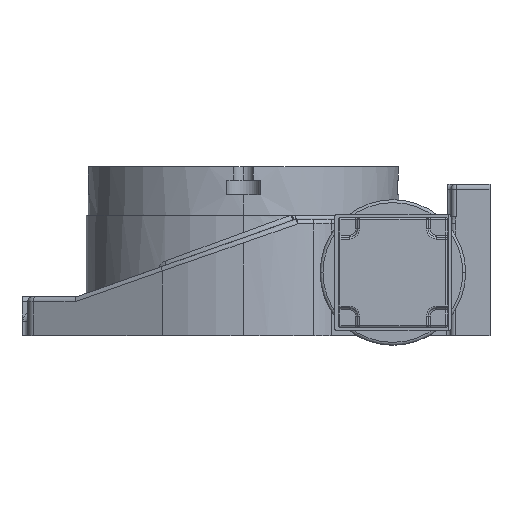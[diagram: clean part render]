
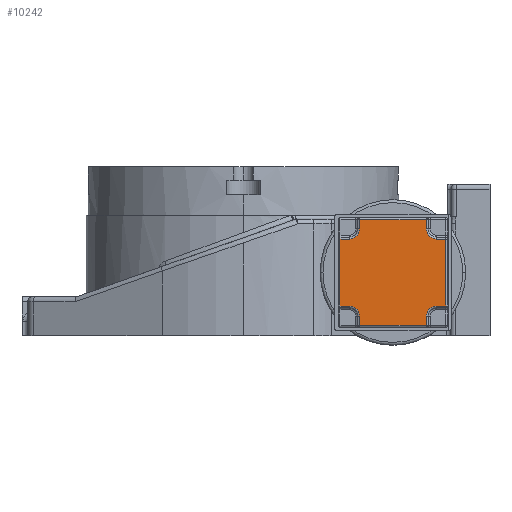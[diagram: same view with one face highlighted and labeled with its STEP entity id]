
A CAD part, left-side view. The second image highlights one B-rep face of the part: STEP entity #10242.
In plain terms, the highlighted planar face has unit normal (-1, 0, 0).
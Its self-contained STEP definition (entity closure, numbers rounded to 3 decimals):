
#946 = EDGE_CURVE ( 'NONE', #10629, #10627, #11442, .T. ) ;
#947 = EDGE_CURVE ( 'NONE', #10627, #10623, #11452, .T. ) ;
#948 = EDGE_CURVE ( 'NONE', #10623, #10622, #11454, .T. ) ;
#949 = EDGE_CURVE ( 'NONE', #10622, #10621, #11456, .T. ) ;
#950 = EDGE_CURVE ( 'NONE', #10621, #10620, #11458, .T. ) ;
#951 = EDGE_CURVE ( 'NONE', #10620, #10619, #11460, .T. ) ;
#952 = EDGE_CURVE ( 'NONE', #10619, #10618, #11461, .T. ) ;
#953 = EDGE_CURVE ( 'NONE', #10618, #10617, #11463, .T. ) ;
#954 = EDGE_CURVE ( 'NONE', #10617, #10616, #11465, .T. ) ;
#955 = EDGE_CURVE ( 'NONE', #10616, #10615, #11467, .T. ) ;
#956 = EDGE_CURVE ( 'NONE', #10615, #10614, #11468, .T. ) ;
#957 = EDGE_CURVE ( 'NONE', #10614, #10613, #11470, .T. ) ;
#958 = EDGE_CURVE ( 'NONE', #10613, #10612, #11472, .T. ) ;
#959 = EDGE_CURVE ( 'NONE', #10612, #10611, #11474, .T. ) ;
#960 = EDGE_CURVE ( 'NONE', #10611, #10610, #11475, .T. ) ;
#961 = EDGE_CURVE ( 'NONE', #10610, #10629, #11477, .T. ) ;
#1143 = EDGE_LOOP ( 'NONE', ( #6783, #6747, #6748, #6888, #6976, #6868, #6834, #6785, #6890, #7020, #7012, #6870, #7016, #6832, #6851, #6796 ) ) ;
#2505 = CARTESIAN_POINT ( 'NONE',  ( -311.5, 0., 15.25 ) ) ;
#2527 = DIRECTION ( 'NONE',  ( 0., 0., -1. ) ) ;
#2533 = DIRECTION ( 'NONE',  ( 0., -1., 0. ) ) ;
#2536 = CARTESIAN_POINT ( 'NONE',  ( -311.5, 67.25, 0. ) ) ;
#2538 = CARTESIAN_POINT ( 'NONE',  ( -311.5, 72.422, 10.078 ) ) ;
#2539 = DIRECTION ( 'NONE',  ( 1., 0., 0. ) ) ;
#2540 = DIRECTION ( 'NONE',  ( 0., 1., 0. ) ) ;
#2543 = CARTESIAN_POINT ( 'NONE',  ( -311.5, 0., 5.25 ) ) ;
#2545 = DIRECTION ( 'NONE',  ( 0., -1., 0. ) ) ;
#2547 = CARTESIAN_POINT ( 'NONE',  ( -311.5, 32.75, 0. ) ) ;
#2551 = DIRECTION ( 'NONE',  ( 0., 0., 1. ) ) ;
#2552 = CARTESIAN_POINT ( 'NONE',  ( -311.5, 32.75, 0. ) ) ;
#2553 = DIRECTION ( 'NONE',  ( 0., 0., 1. ) ) ;
#2554 = CARTESIAN_POINT ( 'NONE',  ( -311.5, 27.578, 10.078 ) ) ;
#2556 = DIRECTION ( 'NONE',  ( 1., 0., 0. ) ) ;
#2558 = DIRECTION ( 'NONE',  ( 0., 1., 0. ) ) ;
#2561 = CARTESIAN_POINT ( 'NONE',  ( -311.5, 22.75, 0. ) ) ;
#2564 = DIRECTION ( 'NONE',  ( 0., 0., 1. ) ) ;
#2566 = CARTESIAN_POINT ( 'NONE',  ( -311.5, 0., 49.75 ) ) ;
#2570 = DIRECTION ( 'NONE',  ( 0., 1., 0. ) ) ;
#2573 = CARTESIAN_POINT ( 'NONE',  ( -311.5, 0., 49.75 ) ) ;
#2575 = DIRECTION ( 'NONE',  ( 0., 1., 0. ) ) ;
#2576 = CARTESIAN_POINT ( 'NONE',  ( -311.5, 27.578, 54.922 ) ) ;
#2577 = DIRECTION ( 'NONE',  ( 1., 0., 0. ) ) ;
#2580 = DIRECTION ( 'NONE',  ( 0., 1., 0. ) ) ;
#2582 = CARTESIAN_POINT ( 'NONE',  ( -311.5, 0., 59.75 ) ) ;
#2583 = DIRECTION ( 'NONE',  ( 0., 1., 0. ) ) ;
#2585 = CARTESIAN_POINT ( 'NONE',  ( -311.5, 67.25, 0. ) ) ;
#2586 = DIRECTION ( 'NONE',  ( 0., 0., -1. ) ) ;
#2591 = CARTESIAN_POINT ( 'NONE',  ( -311.5, 72.422, 54.922 ) ) ;
#2592 = DIRECTION ( 'NONE',  ( 1., 0., 0. ) ) ;
#2593 = DIRECTION ( 'NONE',  ( 0., 1., 0. ) ) ;
#2594 = CARTESIAN_POINT ( 'NONE',  ( -311.5, 77.25, 0. ) ) ;
#2595 = DIRECTION ( 'NONE',  ( 0., 0., -1. ) ) ;
#2597 = CARTESIAN_POINT ( 'NONE',  ( -311.5, 0., 15.25 ) ) ;
#2599 = DIRECTION ( 'NONE',  ( 0., -1., 0. ) ) ;
#4175 = FACE_OUTER_BOUND ( 'NONE', #1143, .T. ) ;
#5317 = PLANE ( 'NONE',  #9777 ) ;
#5318 = CARTESIAN_POINT ( 'NONE',  ( -311.5, 0., 0. ) ) ;
#5323 = DIRECTION ( 'NONE',  ( 1., 0., 0. ) ) ;
#5324 = DIRECTION ( 'NONE',  ( 0., 1., 0. ) ) ;
#5637 = CARTESIAN_POINT ( 'NONE',  ( -311.5, 77.25, 15.25 ) ) ;
#5638 = CARTESIAN_POINT ( 'NONE',  ( -311.5, 77.25, 49.75 ) ) ;
#5639 = CARTESIAN_POINT ( 'NONE',  ( -311.5, 72.422, 49.75 ) ) ;
#5640 = CARTESIAN_POINT ( 'NONE',  ( -311.5, 67.25, 54.922 ) ) ;
#5641 = CARTESIAN_POINT ( 'NONE',  ( -311.5, 67.25, 59.75 ) ) ;
#5642 = CARTESIAN_POINT ( 'NONE',  ( -311.5, 32.75, 59.75 ) ) ;
#5643 = CARTESIAN_POINT ( 'NONE',  ( -311.5, 32.75, 54.922 ) ) ;
#5644 = CARTESIAN_POINT ( 'NONE',  ( -311.5, 27.578, 49.75 ) ) ;
#5645 = CARTESIAN_POINT ( 'NONE',  ( -311.5, 22.75, 49.75 ) ) ;
#5646 = CARTESIAN_POINT ( 'NONE',  ( -311.5, 22.75, 15.25 ) ) ;
#5647 = CARTESIAN_POINT ( 'NONE',  ( -311.5, 27.578, 15.25 ) ) ;
#5648 = CARTESIAN_POINT ( 'NONE',  ( -311.5, 32.75, 10.078 ) ) ;
#5649 = CARTESIAN_POINT ( 'NONE',  ( -311.5, 32.75, 5.25 ) ) ;
#5650 = CARTESIAN_POINT ( 'NONE',  ( -311.5, 67.25, 5.25 ) ) ;
#5654 = CARTESIAN_POINT ( 'NONE',  ( -311.5, 67.25, 10.078 ) ) ;
#5656 = CARTESIAN_POINT ( 'NONE',  ( -311.5, 72.422, 15.25 ) ) ;
#6747 = ORIENTED_EDGE ( 'NONE', *, *, #947, .T. ) ;
#6748 = ORIENTED_EDGE ( 'NONE', *, *, #948, .T. ) ;
#6783 = ORIENTED_EDGE ( 'NONE', *, *, #946, .T. ) ;
#6785 = ORIENTED_EDGE ( 'NONE', *, *, #953, .T. ) ;
#6796 = ORIENTED_EDGE ( 'NONE', *, *, #961, .T. ) ;
#6832 = ORIENTED_EDGE ( 'NONE', *, *, #959, .T. ) ;
#6834 = ORIENTED_EDGE ( 'NONE', *, *, #952, .T. ) ;
#6851 = ORIENTED_EDGE ( 'NONE', *, *, #960, .T. ) ;
#6868 = ORIENTED_EDGE ( 'NONE', *, *, #951, .T. ) ;
#6870 = ORIENTED_EDGE ( 'NONE', *, *, #957, .T. ) ;
#6888 = ORIENTED_EDGE ( 'NONE', *, *, #949, .T. ) ;
#6890 = ORIENTED_EDGE ( 'NONE', *, *, #954, .T. ) ;
#6976 = ORIENTED_EDGE ( 'NONE', *, *, #950, .T. ) ;
#7012 = ORIENTED_EDGE ( 'NONE', *, *, #956, .T. ) ;
#7016 = ORIENTED_EDGE ( 'NONE', *, *, #958, .T. ) ;
#7020 = ORIENTED_EDGE ( 'NONE', *, *, #955, .T. ) ;
#9364 = AXIS2_PLACEMENT_3D ( 'NONE', #2538, #2539, #2540 ) ;
#9365 = AXIS2_PLACEMENT_3D ( 'NONE', #2554, #2556, #2558 ) ;
#9366 = AXIS2_PLACEMENT_3D ( 'NONE', #2576, #2577, #2580 ) ;
#9367 = AXIS2_PLACEMENT_3D ( 'NONE', #2591, #2592, #2593 ) ;
#9777 = AXIS2_PLACEMENT_3D ( 'NONE', #5318, #5323, #5324 ) ;
#10242 = ADVANCED_FACE ( 'NONE', ( #4175 ), #5317, .F. ) ;
#10610 = VERTEX_POINT ( 'NONE', #5637 ) ;
#10611 = VERTEX_POINT ( 'NONE', #5638 ) ;
#10612 = VERTEX_POINT ( 'NONE', #5639 ) ;
#10613 = VERTEX_POINT ( 'NONE', #5640 ) ;
#10614 = VERTEX_POINT ( 'NONE', #5641 ) ;
#10615 = VERTEX_POINT ( 'NONE', #5642 ) ;
#10616 = VERTEX_POINT ( 'NONE', #5643 ) ;
#10617 = VERTEX_POINT ( 'NONE', #5644 ) ;
#10618 = VERTEX_POINT ( 'NONE', #5645 ) ;
#10619 = VERTEX_POINT ( 'NONE', #5646 ) ;
#10620 = VERTEX_POINT ( 'NONE', #5647 ) ;
#10621 = VERTEX_POINT ( 'NONE', #5648 ) ;
#10622 = VERTEX_POINT ( 'NONE', #5649 ) ;
#10623 = VERTEX_POINT ( 'NONE', #5650 ) ;
#10627 = VERTEX_POINT ( 'NONE', #5654 ) ;
#10629 = VERTEX_POINT ( 'NONE', #5656 ) ;
#11442 = CIRCLE ( 'NONE', #9364, 5.172 ) ;
#11452 = LINE ( 'NONE', #2536, #11455 ) ;
#11454 = LINE ( 'NONE', #2543, #11457 ) ;
#11455 = VECTOR ( 'NONE', #2527, 1000. ) ;
#11456 = LINE ( 'NONE', #2547, #11459 ) ;
#11457 = VECTOR ( 'NONE', #2545, 1000. ) ;
#11458 = CIRCLE ( 'NONE', #9365, 5.172 ) ;
#11459 = VECTOR ( 'NONE', #2551, 1000. ) ;
#11460 = LINE ( 'NONE', #2505, #11462 ) ;
#11461 = LINE ( 'NONE', #2561, #11464 ) ;
#11462 = VECTOR ( 'NONE', #2533, 1000. ) ;
#11463 = LINE ( 'NONE', #2566, #11466 ) ;
#11464 = VECTOR ( 'NONE', #2564, 1000. ) ;
#11465 = CIRCLE ( 'NONE', #9366, 5.172 ) ;
#11466 = VECTOR ( 'NONE', #2570, 1000. ) ;
#11467 = LINE ( 'NONE', #2552, #11469 ) ;
#11468 = LINE ( 'NONE', #2582, #11471 ) ;
#11469 = VECTOR ( 'NONE', #2553, 1000. ) ;
#11470 = LINE ( 'NONE', #2585, #11473 ) ;
#11471 = VECTOR ( 'NONE', #2583, 1000. ) ;
#11472 = CIRCLE ( 'NONE', #9367, 5.172 ) ;
#11473 = VECTOR ( 'NONE', #2586, 1000. ) ;
#11474 = LINE ( 'NONE', #2573, #11476 ) ;
#11475 = LINE ( 'NONE', #2594, #11478 ) ;
#11476 = VECTOR ( 'NONE', #2575, 1000. ) ;
#11477 = LINE ( 'NONE', #2597, #11480 ) ;
#11478 = VECTOR ( 'NONE', #2595, 1000. ) ;
#11480 = VECTOR ( 'NONE', #2599, 1000. ) ;
